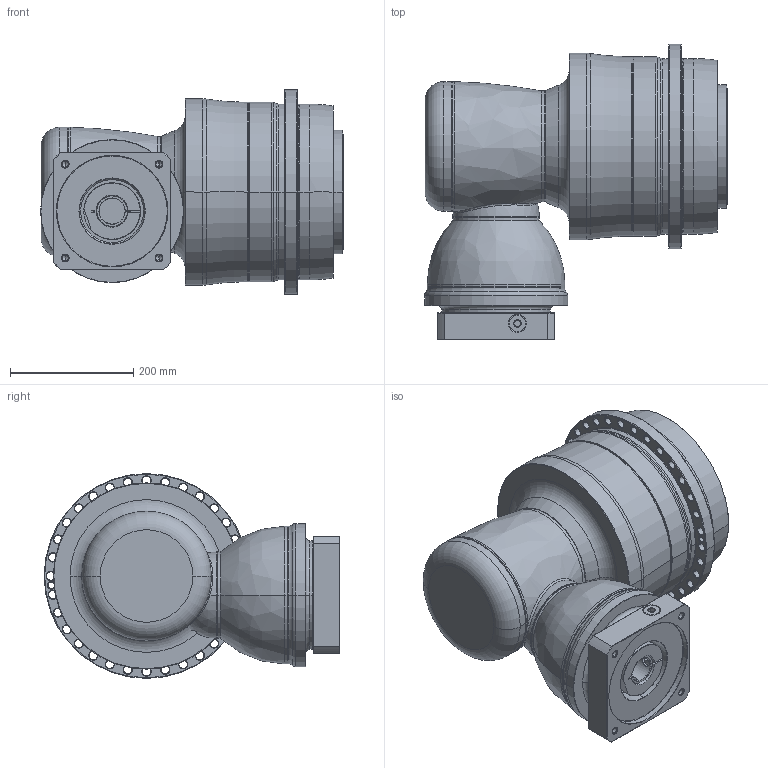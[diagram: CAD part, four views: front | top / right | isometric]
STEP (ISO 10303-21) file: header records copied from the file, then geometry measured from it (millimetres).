
FILE_DESCRIPTION((''),'2;1');
FILE_NAME('APK285_3ST_42-P0409A00201_ASM','2018-11-22T',('D00080'),(''),'PRO/ENGINEER BY PARAMETRIC TECHNOLOGY CORPORATION, 2015240','PRO/ENGINEER BY PARAMETRIC TECHNOLOGY CORPORATION, 2015240','');
FILE_SCHEMA(('CONFIG_CONTROL_DESIGN'));
Length unit declared in the file: millimetre
Products named in the file (13): P1008600002; P1832810001; P0278801003; P0359801103; P1211800001; P1315600001; P1007601001; P1318610301; P0503A00012; P0912603001; P0409A00201; 21711422019; APK285_3ST_42-P0409A00201_ASM
Assembly tree (12 placements, depth 2):
  APK285_3ST_42-P0409A00201_ASM
    P1008600002
    P1832810001
    P0278801003
    P0359801103
    P1211800001
    P1315600001
    P1007601001
    P1318610301
    P0503A00012
    P0912603001
    P0409A00201
    21711422019
Bounding box: 491 x 479.5 x 332 mm (x, y, z)
Volume: 29928846.6 mm3; surface area: 1753648.8 mm2
Topology: 13 solids, 36 shells, 804 faces, 1823 edges, 1089 vertices
Faces by surface type: cylinder 309, cone 254, plane 122, torus 84, bspline 33, sphere 2
Entity records: 28956 total; most frequent: CARTESIAN_POINT 10213, DIRECTION 4307, ORIENTED_EDGE 3480, AXIS2_PLACEMENT_3D 1839, EDGE_CURVE 1787, VERTEX_POINT 1089, CIRCLE 1031, EDGE_LOOP 968
